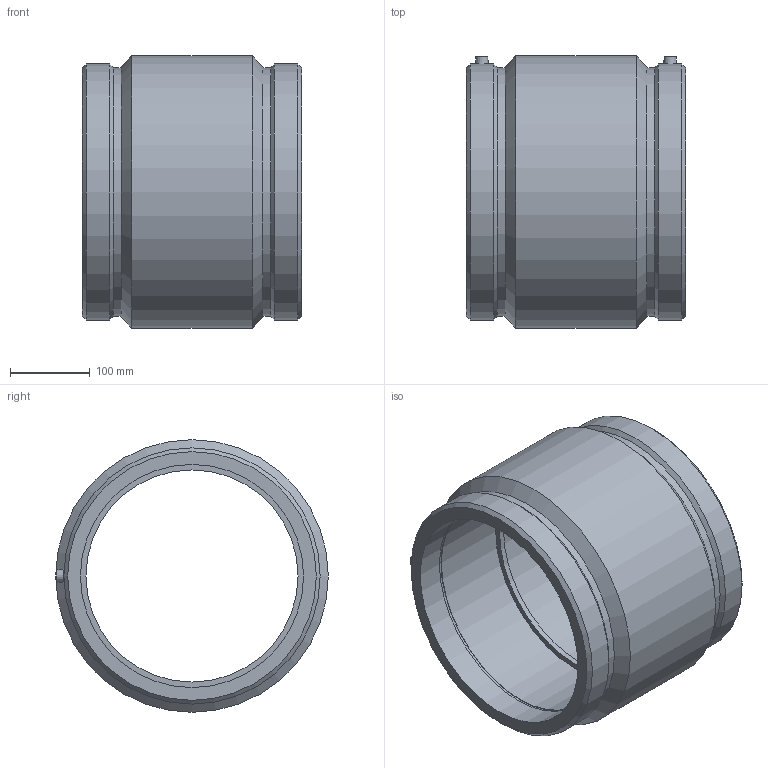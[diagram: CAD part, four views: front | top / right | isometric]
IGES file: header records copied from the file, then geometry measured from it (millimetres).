
Global section: file name: 490104280.ipt; native system: Autodesk Inventor 2015; preprocessor: unknown; author: KIM; date: 20171106.093556; units: millimetre
Bounding box: 275 x 342 x 342 mm (x, y, z)
Volume: 6982916 mm3; surface area: 595680.9 mm2
Topology: 1 solids, 1 shells, 36 faces, 80 edges, 54 vertices
Faces by surface type: plane 12, revolution 9, cone 8, cylinder 7
Full cylindrical faces by diameter (mm): 4 x2, 311.836 x2, 321.48 x2, 342 x1
